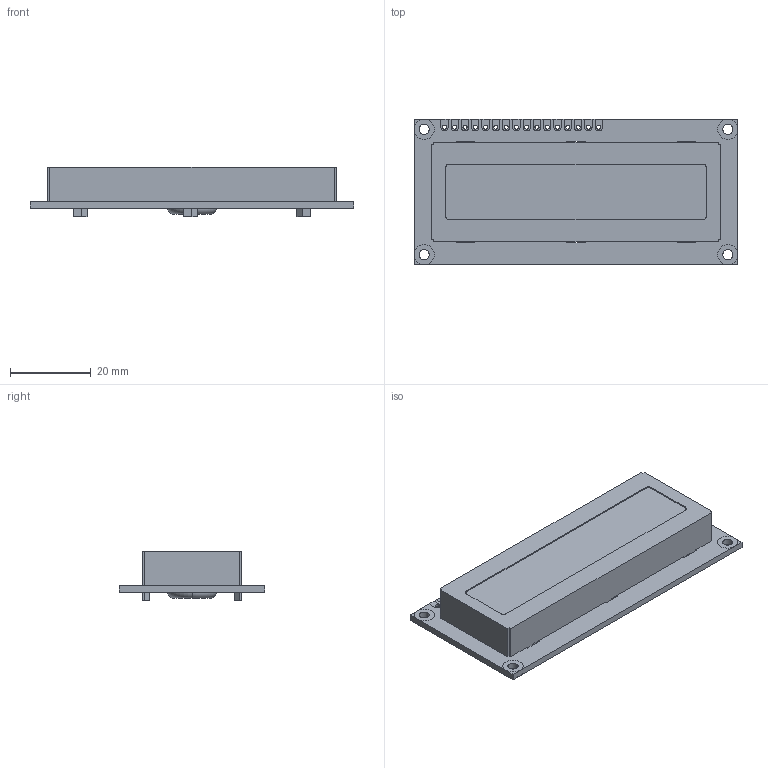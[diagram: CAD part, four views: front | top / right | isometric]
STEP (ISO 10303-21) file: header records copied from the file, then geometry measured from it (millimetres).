
FILE_DESCRIPTION (( 'STEP AP214' ), '1' );
FILE_NAME ('NHD-0116AZ-FL.STEP', '2018-02-27T20:13:24', ( '' ), ( '' ), 'SwSTEP 2.0', 'SolidWorks 2018', '' );
FILE_SCHEMA (( 'AUTOMOTIVE_DESIGN' ));
Length unit declared in the file: millimetre
Products named in the file (1): NHD-0116AZ-FL
Bounding box: 80 x 36 x 12.2 mm (x, y, z)
Volume: 19260.2 mm3; surface area: 8110.8 mm2
Topology: 1 solids, 1 shells, 339 faces, 966 edges, 626 vertices
Faces by surface type: plane 221, cylinder 116, torus 2
Entity records: 14841 total; most frequent: CARTESIAN_POINT 1932, ORIENTED_EDGE 1932, DIRECTION 1892, EDGE_CURVE 966, LINE 720, VECTOR 720, VERTEX_POINT 626, AXIS2_PLACEMENT_3D 586
